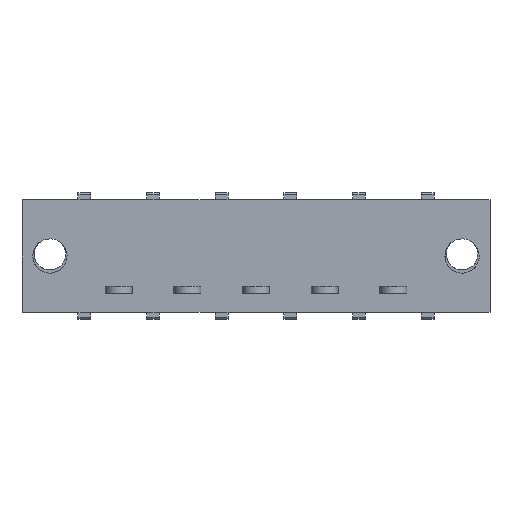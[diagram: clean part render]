
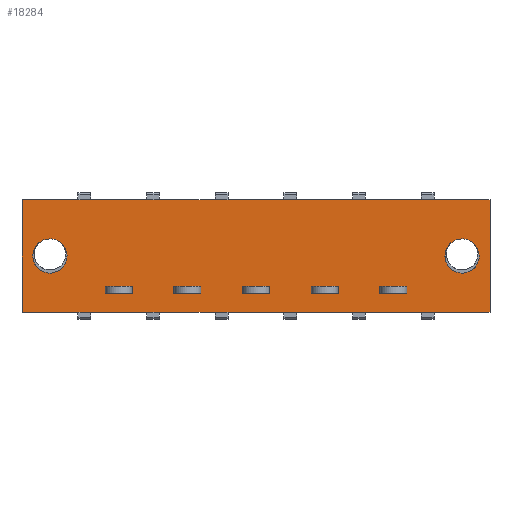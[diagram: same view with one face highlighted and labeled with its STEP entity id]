
A CAD part, front view. The second image highlights one B-rep face of the part: STEP entity #18284.
In plain terms, the highlighted planar face has unit normal (0, -1, 0).
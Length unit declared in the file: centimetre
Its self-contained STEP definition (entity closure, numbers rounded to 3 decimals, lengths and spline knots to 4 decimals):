
#808=PLANE('',#30074);
#1711=VECTOR('',#19702,1.);
#1919=VECTOR('',#20157,1.);
#1923=VECTOR('',#20162,1.);
#1926=VECTOR('',#20185,1.);
#1929=VECTOR('',#20189,1.);
#1978=VECTOR('',#20284,1.);
#1991=VECTOR('',#20300,1.);
#1992=VECTOR('',#20301,1.);
#1993=VECTOR('',#20302,1.);
#1994=VECTOR('',#20303,1.);
#1995=VECTOR('',#20304,1.);
#1996=VECTOR('',#20305,1.);
#1997=VECTOR('',#20306,1.);
#1998=VECTOR('',#20307,1.);
#1999=VECTOR('',#20308,1.);
#2000=VECTOR('',#20309,1.);
#2001=VECTOR('',#20310,1.);
#2002=VECTOR('',#20311,1.);
#2003=VECTOR('',#20312,1.);
#2004=VECTOR('',#20313,1.);
#2005=VECTOR('',#20314,1.);
#2006=VECTOR('',#20315,1.);
#2007=VECTOR('',#20316,1.);
#2008=VECTOR('',#20317,1.);
#3723=LINE('',#24429,#1711);
#3931=LINE('',#25117,#1919);
#3935=LINE('',#25126,#1923);
#3938=LINE('',#25147,#1926);
#3941=LINE('',#25152,#1929);
#3990=LINE('',#25273,#1978);
#4003=LINE('',#25300,#1991);
#4004=LINE('',#25303,#1992);
#4005=LINE('',#25305,#1993);
#4006=LINE('',#25307,#1994);
#4007=LINE('',#25308,#1995);
#4008=LINE('',#25311,#1996);
#4009=LINE('',#25313,#1997);
#4010=LINE('',#25315,#1998);
#4011=LINE('',#25316,#1999);
#4012=LINE('',#25319,#2000);
#4013=LINE('',#25321,#2001);
#4014=LINE('',#25323,#2002);
#4015=LINE('',#25324,#2003);
#4016=LINE('',#25327,#2004);
#4017=LINE('',#25329,#2005);
#4018=LINE('',#25331,#2006);
#4019=LINE('',#25332,#2007);
#4020=LINE('',#25334,#2008);
#5668=VERTEX_POINT('',#24428);
#5669=VERTEX_POINT('',#24430);
#5670=VERTEX_POINT('',#24434);
#5875=VERTEX_POINT('',#25118);
#5876=VERTEX_POINT('',#25119);
#5879=VERTEX_POINT('',#25127);
#5886=VERTEX_POINT('',#25148);
#5929=VERTEX_POINT('',#25274);
#5940=VERTEX_POINT('',#25299);
#5941=VERTEX_POINT('',#25301);
#5942=VERTEX_POINT('',#25302);
#5943=VERTEX_POINT('',#25304);
#5944=VERTEX_POINT('',#25306);
#5945=VERTEX_POINT('',#25309);
#5946=VERTEX_POINT('',#25310);
#5947=VERTEX_POINT('',#25312);
#5948=VERTEX_POINT('',#25314);
#5949=VERTEX_POINT('',#25317);
#5950=VERTEX_POINT('',#25318);
#5951=VERTEX_POINT('',#25320);
#5952=VERTEX_POINT('',#25322);
#5953=VERTEX_POINT('',#25325);
#5954=VERTEX_POINT('',#25326);
#5955=VERTEX_POINT('',#25328);
#5956=VERTEX_POINT('',#25330);
#5957=VERTEX_POINT('',#25333);
#7126=CIRCLE('',#29870,0.19);
#7202=CIRCLE('',#30075,0.19);
#8002=EDGE_CURVE('',#5669,#5668,#3723,.T.);
#8004=EDGE_CURVE('',#5670,#5670,#7126,.T.);
#8305=EDGE_CURVE('',#5875,#5876,#3931,.T.);
#8309=EDGE_CURVE('',#5879,#5875,#3935,.T.);
#8318=EDGE_CURVE('',#5876,#5886,#3938,.T.);
#8321=EDGE_CURVE('',#5886,#5879,#3941,.T.);
#8381=EDGE_CURVE('',#5929,#5668,#3990,.T.);
#8394=EDGE_CURVE('',#5940,#5940,#7202,.T.);
#8395=EDGE_CURVE('',#5941,#5942,#4003,.T.);
#8396=EDGE_CURVE('',#5942,#5943,#4004,.T.);
#8397=EDGE_CURVE('',#5943,#5944,#4005,.T.);
#8398=EDGE_CURVE('',#5944,#5941,#4006,.T.);
#8399=EDGE_CURVE('',#5945,#5946,#4007,.T.);
#8400=EDGE_CURVE('',#5946,#5947,#4008,.T.);
#8401=EDGE_CURVE('',#5947,#5948,#4009,.T.);
#8402=EDGE_CURVE('',#5948,#5945,#4010,.T.);
#8403=EDGE_CURVE('',#5949,#5950,#4011,.T.);
#8404=EDGE_CURVE('',#5950,#5951,#4012,.T.);
#8405=EDGE_CURVE('',#5951,#5952,#4013,.T.);
#8406=EDGE_CURVE('',#5952,#5949,#4014,.T.);
#8407=EDGE_CURVE('',#5953,#5954,#4015,.T.);
#8408=EDGE_CURVE('',#5954,#5955,#4016,.T.);
#8409=EDGE_CURVE('',#5955,#5956,#4017,.T.);
#8410=EDGE_CURVE('',#5956,#5953,#4018,.T.);
#8411=EDGE_CURVE('',#5957,#5669,#4019,.T.);
#8412=EDGE_CURVE('',#5957,#5929,#4020,.T.);
#11982=ORIENTED_EDGE('',*,*,#8004,.T.);
#11983=ORIENTED_EDGE('',*,*,#8394,.T.);
#11984=ORIENTED_EDGE('',*,*,#8309,.F.);
#11985=ORIENTED_EDGE('',*,*,#8321,.F.);
#11986=ORIENTED_EDGE('',*,*,#8318,.F.);
#11987=ORIENTED_EDGE('',*,*,#8305,.F.);
#11988=ORIENTED_EDGE('',*,*,#8395,.T.);
#11989=ORIENTED_EDGE('',*,*,#8396,.T.);
#11990=ORIENTED_EDGE('',*,*,#8397,.T.);
#11991=ORIENTED_EDGE('',*,*,#8398,.T.);
#11992=ORIENTED_EDGE('',*,*,#8399,.T.);
#11993=ORIENTED_EDGE('',*,*,#8400,.T.);
#11994=ORIENTED_EDGE('',*,*,#8401,.T.);
#11995=ORIENTED_EDGE('',*,*,#8402,.T.);
#11996=ORIENTED_EDGE('',*,*,#8403,.T.);
#11997=ORIENTED_EDGE('',*,*,#8404,.T.);
#11998=ORIENTED_EDGE('',*,*,#8405,.T.);
#11999=ORIENTED_EDGE('',*,*,#8406,.T.);
#12000=ORIENTED_EDGE('',*,*,#8407,.T.);
#12001=ORIENTED_EDGE('',*,*,#8408,.T.);
#12002=ORIENTED_EDGE('',*,*,#8409,.T.);
#12003=ORIENTED_EDGE('',*,*,#8410,.T.);
#12004=ORIENTED_EDGE('',*,*,#8411,.T.);
#12005=ORIENTED_EDGE('',*,*,#8002,.T.);
#12006=ORIENTED_EDGE('',*,*,#8381,.F.);
#12007=ORIENTED_EDGE('',*,*,#8412,.F.);
#16043=EDGE_LOOP('',(#11982));
#16044=EDGE_LOOP('',(#11983));
#16045=EDGE_LOOP('',(#11984,#11985,#11986,#11987));
#16046=EDGE_LOOP('',(#11988,#11989,#11990,#11991));
#16047=EDGE_LOOP('',(#11992,#11993,#11994,#11995));
#16048=EDGE_LOOP('',(#11996,#11997,#11998,#11999));
#16049=EDGE_LOOP('',(#12000,#12001,#12002,#12003));
#16050=EDGE_LOOP('',(#12004,#12005,#12006,#12007));
#17183=FACE_BOUND('',#16043,.T.);
#17184=FACE_BOUND('',#16044,.T.);
#17185=FACE_BOUND('',#16045,.T.);
#17186=FACE_BOUND('',#16046,.T.);
#17187=FACE_BOUND('',#16047,.T.);
#17188=FACE_BOUND('',#16048,.T.);
#17189=FACE_BOUND('',#16049,.T.);
#17190=FACE_BOUND('',#16050,.T.);
#18284=ADVANCED_FACE('',(#17183,#17184,#17185,#17186,#17187,#17188,#17189,
#17190),#808,.T.);
#19702=DIRECTION('',(0.,0.,1.));
#19706=DIRECTION('',(0.,1.,0.));
#19707=DIRECTION('',(0.19,0.,0.));
#20157=DIRECTION('',(0.,0.,-1.));
#20162=DIRECTION('',(-1.,0.,0.));
#20185=DIRECTION('',(1.,0.,0.));
#20189=DIRECTION('',(0.,0.,1.));
#20284=DIRECTION('',(1.,0.,0.));
#20297=DIRECTION('',(0.,-1.,0.));
#20298=DIRECTION('',(0.,1.,0.));
#20299=DIRECTION('',(0.19,0.,0.));
#20300=DIRECTION('',(1.,0.,0.));
#20301=DIRECTION('',(0.,0.,-1.));
#20302=DIRECTION('',(-1.,0.,0.));
#20303=DIRECTION('',(0.,0.,1.));
#20304=DIRECTION('',(1.,0.,0.));
#20305=DIRECTION('',(0.,0.,-1.));
#20306=DIRECTION('',(-1.,0.,0.));
#20307=DIRECTION('',(0.,0.,1.));
#20308=DIRECTION('',(1.,0.,0.));
#20309=DIRECTION('',(0.,0.,-1.));
#20310=DIRECTION('',(-1.,0.,0.));
#20311=DIRECTION('',(0.,0.,1.));
#20312=DIRECTION('',(1.,0.,0.));
#20313=DIRECTION('',(0.,0.,-1.));
#20314=DIRECTION('',(-1.,0.,0.));
#20315=DIRECTION('',(0.,0.,1.));
#20316=DIRECTION('',(1.,0.,0.));
#20317=DIRECTION('',(0.,0.,1.));
#24428=CARTESIAN_POINT('',(3.81,0.,0.625));
#24429=CARTESIAN_POINT('',(3.81,0.,-0.625));
#24430=CARTESIAN_POINT('',(3.81,0.,-0.625));
#24433=CARTESIAN_POINT('',(3.5,0.,0.));
#24434=CARTESIAN_POINT('',(3.31,0.,0.));
#25117=CARTESIAN_POINT('',(-0.46,0.,-0.1875));
#25118=CARTESIAN_POINT('',(-0.46,0.,-0.335));
#25119=CARTESIAN_POINT('',(-0.46,0.,-0.415));
#25126=CARTESIAN_POINT('',(-0.465,0.,-0.335));
#25127=CARTESIAN_POINT('',(-0.16,0.,-0.335));
#25147=CARTESIAN_POINT('',(-0.465,0.,-0.415));
#25148=CARTESIAN_POINT('',(-0.16,0.,-0.415));
#25152=CARTESIAN_POINT('',(-0.16,0.,-0.1875));
#25273=CARTESIAN_POINT('',(-1.382,0.,0.625));
#25274=CARTESIAN_POINT('',(-1.382,0.,0.625));
#25297=CARTESIAN_POINT('',(0.,0.,0.));
#25298=CARTESIAN_POINT('',(-1.072,0.,0.));
#25299=CARTESIAN_POINT('',(-1.262,0.,0.));
#25300=CARTESIAN_POINT('',(1.369,0.,-0.335));
#25301=CARTESIAN_POINT('',(2.588,0.,-0.335));
#25302=CARTESIAN_POINT('',(2.888,0.,-0.335));
#25303=CARTESIAN_POINT('',(2.888,0.,-0.1875));
#25304=CARTESIAN_POINT('',(2.888,0.,-0.415));
#25305=CARTESIAN_POINT('',(1.369,0.,-0.415));
#25306=CARTESIAN_POINT('',(2.588,0.,-0.415));
#25307=CARTESIAN_POINT('',(2.588,0.,-0.1875));
#25308=CARTESIAN_POINT('',(0.988,0.,-0.335));
#25309=CARTESIAN_POINT('',(1.826,0.,-0.335));
#25310=CARTESIAN_POINT('',(2.126,0.,-0.335));
#25311=CARTESIAN_POINT('',(2.126,0.,-0.1875));
#25312=CARTESIAN_POINT('',(2.126,0.,-0.415));
#25313=CARTESIAN_POINT('',(0.988,0.,-0.415));
#25314=CARTESIAN_POINT('',(1.826,0.,-0.415));
#25315=CARTESIAN_POINT('',(1.826,0.,-0.1875));
#25316=CARTESIAN_POINT('',(0.607,0.,-0.335));
#25317=CARTESIAN_POINT('',(1.064,0.,-0.335));
#25318=CARTESIAN_POINT('',(1.364,0.,-0.335));
#25319=CARTESIAN_POINT('',(1.364,0.,-0.1875));
#25320=CARTESIAN_POINT('',(1.364,0.,-0.415));
#25321=CARTESIAN_POINT('',(0.607,0.,-0.415));
#25322=CARTESIAN_POINT('',(1.064,0.,-0.415));
#25323=CARTESIAN_POINT('',(1.064,0.,-0.1875));
#25324=CARTESIAN_POINT('',(0.226,0.,-0.335));
#25325=CARTESIAN_POINT('',(0.302,0.,-0.335));
#25326=CARTESIAN_POINT('',(0.602,0.,-0.335));
#25327=CARTESIAN_POINT('',(0.602,0.,-0.1875));
#25328=CARTESIAN_POINT('',(0.602,0.,-0.415));
#25329=CARTESIAN_POINT('',(0.226,0.,-0.415));
#25330=CARTESIAN_POINT('',(0.302,0.,-0.415));
#25331=CARTESIAN_POINT('',(0.302,0.,-0.1875));
#25332=CARTESIAN_POINT('',(-1.382,0.,-0.625));
#25333=CARTESIAN_POINT('',(-1.382,0.,-0.625));
#25334=CARTESIAN_POINT('',(-1.382,0.,-0.625));
#29870=AXIS2_PLACEMENT_3D('',#24433,#19706,#19707);
#30074=AXIS2_PLACEMENT_3D('',#25297,#20297,$);
#30075=AXIS2_PLACEMENT_3D('',#25298,#20298,#20299);
